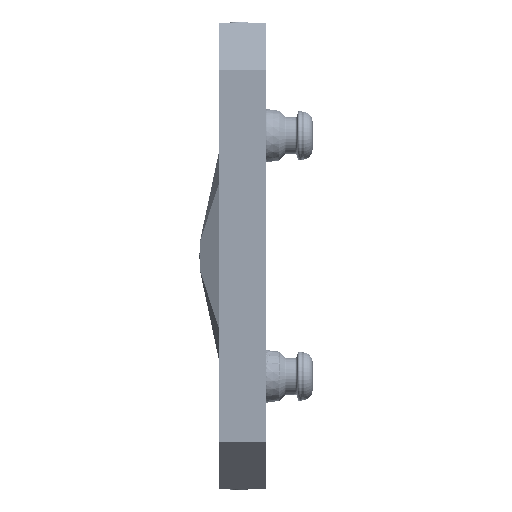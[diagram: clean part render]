
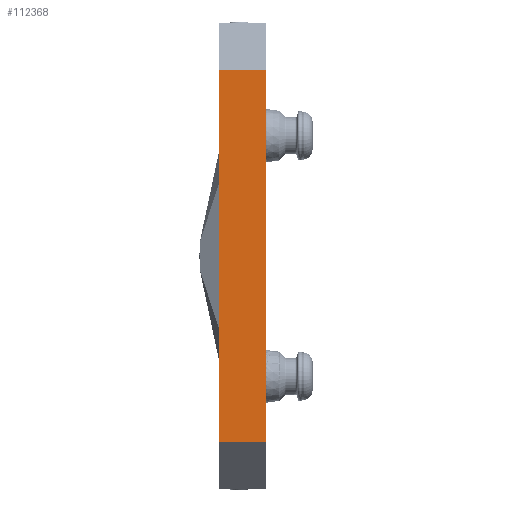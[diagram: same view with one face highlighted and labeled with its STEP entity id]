
A CAD part, left-side view. The second image highlights one B-rep face of the part: STEP entity #112368.
In plain terms, the highlighted planar face has unit normal (-1, 0, 0).
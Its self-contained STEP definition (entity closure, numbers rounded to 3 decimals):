
#1504 = CARTESIAN_POINT ( 'NONE',  ( -175., 35., -139. ) ) ;
#4559 = VERTEX_POINT ( 'NONE', #11693 ) ;
#4731 = LINE ( 'NONE', #110281, #85358 ) ;
#11693 = CARTESIAN_POINT ( 'NONE',  ( -175., 0., 139. ) ) ;
#12329 = VECTOR ( 'NONE', #52283, 1000. ) ;
#19033 = DIRECTION ( 'NONE',  ( 0., 1., 0. ) ) ;
#19039 = CARTESIAN_POINT ( 'NONE',  ( -175., 35., 174. ) ) ;
#20036 = EDGE_CURVE ( 'NONE', #4559, #21650, #97484, .T. ) ;
#21650 = VERTEX_POINT ( 'NONE', #87850 ) ;
#24125 = VECTOR ( 'NONE', #57396, 1000. ) ;
#29470 = VERTEX_POINT ( 'NONE', #96786 ) ;
#40726 = ORIENTED_EDGE ( 'NONE', *, *, #85264, .T. ) ;
#41189 = FACE_OUTER_BOUND ( 'NONE', #94283, .T. ) ;
#43108 = DIRECTION ( 'NONE',  ( 0., 0., 1. ) ) ;
#48452 = EDGE_CURVE ( 'NONE', #94629, #4559, #4731, .T. ) ;
#49377 = DIRECTION ( 'NONE',  ( 1., 0., 0. ) ) ;
#52283 = DIRECTION ( 'NONE',  ( 0., -1., 0. ) ) ;
#57141 = CARTESIAN_POINT ( 'NONE',  ( -175., 0., -139. ) ) ;
#57396 = DIRECTION ( 'NONE',  ( 0., 0., 1. ) ) ;
#60726 = DIRECTION ( 'NONE',  ( 0., 0., -1. ) ) ;
#64007 = ORIENTED_EDGE ( 'NONE', *, *, #20036, .T. ) ;
#66832 = LINE ( 'NONE', #19039, #24125 ) ;
#68352 = ORIENTED_EDGE ( 'NONE', *, *, #48452, .T. ) ;
#77676 = PLANE ( 'NONE',  #113380 ) ;
#79558 = CARTESIAN_POINT ( 'NONE',  ( -175., 35., 174. ) ) ;
#80638 = EDGE_CURVE ( 'NONE', #29470, #21650, #66832, .T. ) ;
#85264 = EDGE_CURVE ( 'NONE', #29470, #94629, #89961, .T. ) ;
#85358 = VECTOR ( 'NONE', #43108, 1000. ) ;
#87850 = CARTESIAN_POINT ( 'NONE',  ( -175., 35., 139. ) ) ;
#89961 = LINE ( 'NONE', #1504, #12329 ) ;
#94283 = EDGE_LOOP ( 'NONE', ( #68352, #64007, #122601, #40726 ) ) ;
#94629 = VERTEX_POINT ( 'NONE', #57141 ) ;
#96786 = CARTESIAN_POINT ( 'NONE',  ( -175., 35., -139. ) ) ;
#97484 = LINE ( 'NONE', #106905, #98319 ) ;
#98319 = VECTOR ( 'NONE', #19033, 1000. ) ;
#106905 = CARTESIAN_POINT ( 'NONE',  ( -175., 35., 139. ) ) ;
#110281 = CARTESIAN_POINT ( 'NONE',  ( -175., 0., 174. ) ) ;
#112368 = ADVANCED_FACE ( 'NONE', ( #41189 ), #77676, .F. ) ;
#113380 = AXIS2_PLACEMENT_3D ( 'NONE', #79558, #49377, #60726 ) ;
#122601 = ORIENTED_EDGE ( 'NONE', *, *, #80638, .F. ) ;
